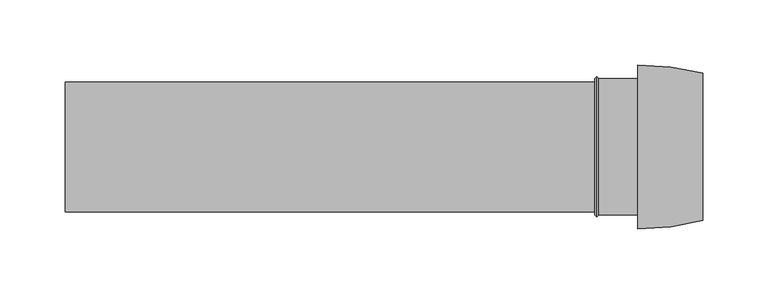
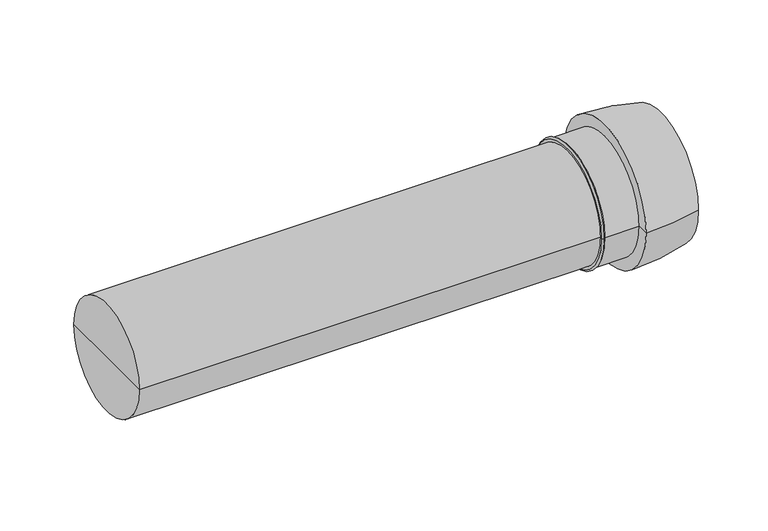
"""IFC4 building model written with IfcOpenShell, lengths in millimetres: duct segment geometry, NLRS_57_AIR_DUF_Easysafe verl pijp PP_M&G : Easysafe verlengpijp."""

from ifc_helpers import new_model, si_unit, point, frame, origin, place, context, project, spatial, polyline, circle_curve, ellipse_curve, trimmed, source, transform, mapped, element, save
from ifc_brep_helpers import plane_surface, cylinder_surface, revolved_surface, advanced_brep


def duct_segment_2794da40(model_context):
    return source(origin(), model_context, "Body", "AdvancedBrep", [
        advanced_brep(
        [(0.0, 0.0, 0.0), (0.0, 50.0, 0.0), (0.0, -50.0, 0.0), (440.0, -63.0, 0.0), (440.0, 63.0, 0.0), (490.0, 56.6491673, 0.0), (490.0, -56.6491673, 0.0), (440.0, -52.5, 0.0), (440.0, 52.5, 0.0), (410.0, -52.5, 0.0), (410.0, 52.5, 0.0), (407.0, 50.0, 0.0), (407.0, -50.0, 0.0), (490.0, 50.0, 0.0), (490.0, -50.0, 0.0), (408.5, -54.0, 0.0), (408.5, 54.0, 0.0), (407.0, -52.5, 0.0), (407.0, 52.5, 0.0), (440.0, -50.0, 0.0), (440.0, 50.0, 0.0), (440.0, 0.0, 0.0)],
        [
            (0, 1),
            (1, 2, circle_curve(frame((0.0, 0.0, 0.0), z_axis=(-1.0, 0.0, 0.0), x_axis=(0.0, 1.0, 0.0)), 50.0)),
            (2, 0),
            (2, 1, circle_curve(frame((0.0, 0.0, 0.0), z_axis=(-1.0, 0.0, 0.0), x_axis=(0.0, 1.0, 0.0)), 50.0)),
            (3, 4, circle_curve(frame((440.0, 0.0, 0.0), z_axis=(1.0, 0.0, 0.0), x_axis=(0.0, 1.0, 0.0)), 63.0)),
            (4, 5, circle_curve(frame((440.0, -137.0, 0.0), z_axis=(0.0, 0.0, -1.0), x_axis=(1.0, 0.0, 0.0)), 200.0)),
            (5, 6, circle_curve(frame((490.0, 0.0, 0.0), z_axis=(-1.0, 0.0, 0.0), x_axis=(0.0, 1.0, 0.0)), 56.6491673)),
            (6, 3, circle_curve(frame((440.0, 137.0, 0.0), z_axis=(0.0, 0.0, -1.0), x_axis=(1.0, 0.0, 0.0)), 200.0)),
            (4, 3, circle_curve(frame((440.0, 0.0, 0.0), z_axis=(1.0, 0.0, 0.0), x_axis=(0.0, 1.0, 0.0)), 63.0)),
            (6, 5, circle_curve(frame((490.0, 0.0, 0.0), z_axis=(-1.0, 0.0, 0.0), x_axis=(0.0, 1.0, 0.0)), 56.6491673)),
            (7, 8, circle_curve(frame((440.0, 0.0, 0.0), z_axis=(1.0, 0.0, 0.0), x_axis=(0.0, 1.0, 0.0)), 52.5)),
            (8, 4),
            (3, 7),
            (8, 7, circle_curve(frame((440.0, 0.0, 0.0), z_axis=(1.0, 0.0, 0.0), x_axis=(0.0, 1.0, 0.0)), 52.5)),
            (9, 10, circle_curve(frame((410.0, 0.0, 0.0), z_axis=(1.0, 0.0, 0.0), x_axis=(0.0, 1.0, 0.0)), 52.5)),
            (10, 8),
            (7, 9),
            (10, 9, circle_curve(frame((410.0, 0.0, 0.0), z_axis=(1.0, 0.0, 0.0), x_axis=(0.0, 1.0, 0.0)), 52.5)),
            (1, 11),
            (11, 12, circle_curve(frame((407.0, 0.0, 0.0), z_axis=(-1.0, 0.0, 0.0), x_axis=(0.0, 1.0, 0.0)), 50.0)),
            (12, 2),
            (12, 11, circle_curve(frame((407.0, 0.0, 0.0), z_axis=(-1.0, 0.0, 0.0), x_axis=(0.0, 1.0, 0.0)), 50.0)),
            (5, 13),
            (13, 14, circle_curve(frame((490.0, 0.0, 0.0), z_axis=(-1.0, 0.0, 0.0), x_axis=(0.0, 1.0, 0.0)), 50.0)),
            (14, 6),
            (14, 13, circle_curve(frame((490.0, 0.0, 0.0), z_axis=(-1.0, 0.0, 0.0), x_axis=(0.0, 1.0, 0.0)), 50.0)),
            (15, 16, circle_curve(frame((408.5, 0.0, 0.0), z_axis=(1.0, 0.0, 0.0), x_axis=(0.0, 1.0, 0.0)), 54.0)),
            (16, 10),
            (9, 15),
            (16, 15, circle_curve(frame((408.5, 0.0, 0.0), z_axis=(1.0, 0.0, 0.0), x_axis=(0.0, 1.0, 0.0)), 54.0)),
            (17, 18, circle_curve(frame((407.0, 0.0, 0.0), z_axis=(1.0, 0.0, 0.0), x_axis=(0.0, 1.0, 0.0)), 52.5)),
            (18, 16),
            (15, 17),
            (18, 17, circle_curve(frame((407.0, 0.0, 0.0), z_axis=(1.0, 0.0, 0.0), x_axis=(0.0, 1.0, 0.0)), 52.5)),
            (11, 18),
            (17, 12),
            (19, 20, circle_curve(frame((440.0, 0.0, 0.0), z_axis=(1.0, 0.0, 0.0), x_axis=(0.0, 1.0, 0.0)), 50.0)),
            (20, 21),
            (21, 19),
            (20, 19, circle_curve(frame((440.0, 0.0, 0.0), z_axis=(1.0, 0.0, 0.0), x_axis=(0.0, 1.0, 0.0)), 50.0)),
            (13, 20),
            (19, 14),
        ],
        [
            plane_surface(frame((0.0, 0.0, 0.0), z_axis=(-1.0, 0.0, 0.0), x_axis=(0.0, 1.0, 0.0))),
            revolved_surface(trimmed(ellipse_curve(frame((440.0, -137.0, 0.0), z_axis=(0.0, 0.0, 1.0), x_axis=(1.0, 0.0, 0.0)), 200.0, 200.0), [point((490.0, 56.6491673, 0.0))], [point((440.0, 63.0, 0.0))], True, "CARTESIAN"), (-500.0, 0.0, 0.0), (-1.0, 0.0, 0.0)),
            plane_surface(frame((440.0, 0.0, 0.0), z_axis=(-1.0, 0.0, 0.0), x_axis=(0.0, 1.0, 0.0))),
            cylinder_surface(frame((-500.0, 0.0, 0.0), z_axis=(-1.0, 0.0, 0.0), x_axis=(0.0, 1.0, 0.0)), 52.5),
            cylinder_surface(frame((-500.0, 0.0, 0.0), z_axis=(-1.0, 0.0, 0.0), x_axis=(0.0, 1.0, 0.0)), 50.0),
            plane_surface(frame((490.0, 0.0, 0.0), z_axis=(1.0, 0.0, 0.0), x_axis=(0.0, 1.0, 0.0))),
            revolved_surface(polyline([(410.0, 52.5, 0.0), (408.5, 54.0, 0.0)]), (-500.0, 0.0, 0.0), (-1.0, 0.0, 0.0)),
            revolved_surface(polyline([(408.5, 54.0, 0.0), (407.0, 52.5, 0.0)]), (-500.0, 0.0, 0.0), (-1.0, 0.0, 0.0)),
            plane_surface(frame((407.0, 0.0, 0.0), z_axis=(-1.0, 0.0, 0.0), x_axis=(0.0, 1.0, 0.0))),
            plane_surface(frame((440.0, 0.0, 0.0), z_axis=(1.0, 0.0, 0.0), x_axis=(0.0, 1.0, 0.0))),
            revolved_surface(polyline([(440.0, 50.0, 0.0), (490.0, 50.0, 0.0)]), (-500.0, 0.0, 0.0), (-1.0, 0.0, 0.0)),
        ],
        [
            (0, [[1, 2, 3]]),
            (0, [[-3, 4, -1]]),
            (1, [[5, 6, 7, 8]]),
            (1, [[9, -8, 10, -6]]),
            (2, [[11, 12, -5, 13]]),
            (2, [[14, -13, -9, -12]]),
            (3, [[15, 16, -11, 17]]),
            (3, [[18, -17, -14, -16]]),
            (4, [[-2, 19, 20, 21]]),
            (4, [[-4, -21, 22, -19]]),
            (5, [[-7, 23, 24, 25]]),
            (5, [[-10, -25, 26, -23]]),
            (6, [[27, 28, -15, 29]]),
            (6, [[30, -29, -18, -28]]),
            (7, [[31, 32, -27, 33]]),
            (7, [[34, -33, -30, -32]]),
            (8, [[-20, 35, -31, 36]]),
            (8, [[-22, -36, -34, -35]]),
            (9, [[37, 38, 39]]),
            (9, [[40, -39, -38]]),
            (10, [[-24, 41, -37, 42]]),
            (10, [[-26, -42, -40, -41]]),
        ],
    ),
    ])


if __name__ == "__main__":
    model = new_model("IFC4")
    model_context = context("Model", 3, world=origin())
    ifc_project = project(units=[si_unit("LENGTHUNIT", "METRE", prefix="MILLI")], contexts=[model_context])
    site = spatial("IfcSite", under=ifc_project)
    building = spatial("IfcBuilding", under=site)
    placement = place(None, origin())
    duct_segment_shape = duct_segment_2794da40(model_context)
    element("IfcDuctSegment", 1, ObjectType="NLRS_57_AIR_DUF_Easysafe verl pijp PP_M&G : Easysafe verlengpijp", at=placement, inside=building, context=model_context, shape_type="MappedRepresentation", body=[
        mapped(duct_segment_shape, transform((0.0, 0.0, 0.0), x_axis=(1.0, 0.0, 0.0), y_axis=(0.0, 1.0, 0.0), z_axis=(0.0, 0.0, 1.0))),
    ])
    save(model, "model.ifc")
